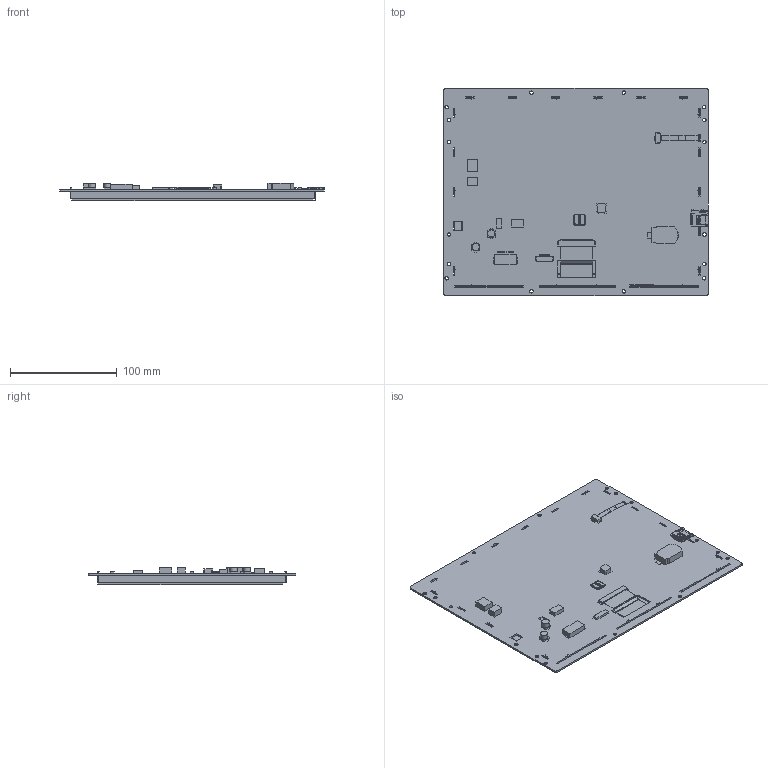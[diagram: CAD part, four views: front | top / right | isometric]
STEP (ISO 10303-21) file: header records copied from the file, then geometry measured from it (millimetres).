
FILE_DESCRIPTION(/* description */ (''),/* implementation_level */ '2;1');
FILE_NAME(/* name */ '',/* time_stamp */ '2021-08-14T08:54:45+08:00',/* author */ (''),/* organization */ (''),/* preprocessor_version */ 'ST-DEVELOPER v11',/* originating_system */ 'SIEMENS PLM Software NX 7.5',/* authorisation */ '');
FILE_SCHEMA (('AP203_CONFIGURATION_CONTROLLED_3D_DESIGN_OF_MECHANICAL_PARTS_AND_ASSEMBLIES_MIM_LF'));
Products named in the file (1): SDWb104T84T
Bounding box: 247.8 x 193.7 x 16.62 mm (x, y, z)
Volume: 151479.3 mm3; surface area: 281634.9 mm2
Topology: 25 solids, 25 shells, 2986 faces, 8546 edges, 5623 vertices
Faces by surface type: plane 2495, cylinder 483, bspline 7, cone 1
Full cylindrical faces by diameter (mm): 3.2 x16, 6.776 x2
Entity records: 99476 total; most frequent: CARTESIAN_POINT 17765, ORIENTED_EDGE 16934, DIRECTION 15372, EDGE_CURVE 8467, LINE 7480, VECTOR 7480, VERTEX_POINT 5538, AXIS2_PLACEMENT_3D 3946
